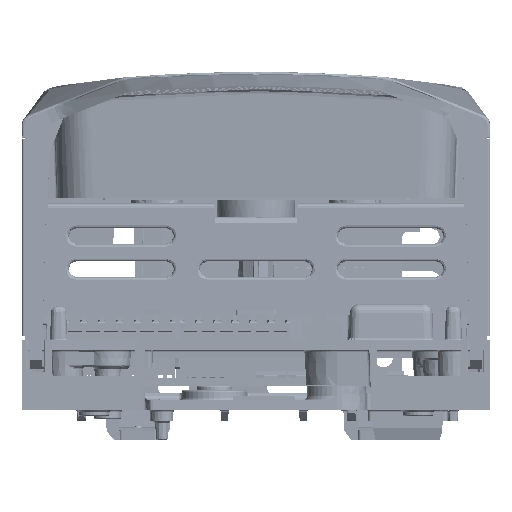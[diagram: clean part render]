
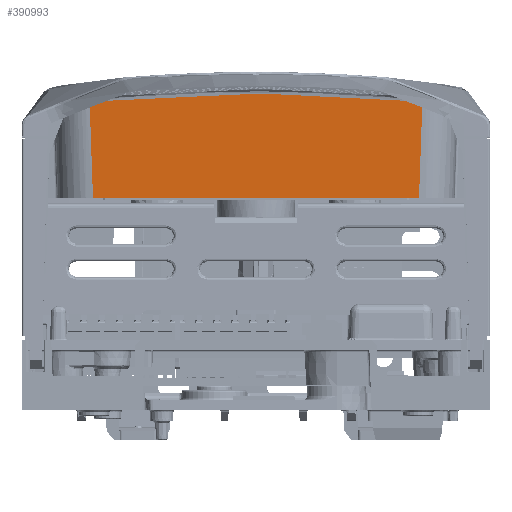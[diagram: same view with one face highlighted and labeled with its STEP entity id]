
A CAD part, front view. The second image highlights one B-rep face of the part: STEP entity #390993.
In plain terms, the highlighted planar face has unit normal (0, -0.999, -0.035) as drawn and (0, 0.999, -0.035) by its records, which use the part's own axes.
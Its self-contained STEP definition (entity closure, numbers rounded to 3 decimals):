
#33043=PLANE('',#419118);
#51691=FACE_OUTER_BOUND('',#72358,.T.);
#72358=EDGE_LOOP('',(#351790,#351791,#351792,#351793,#351794));
#86346=B_SPLINE_CURVE_WITH_KNOTS('',3,(#676980,#676981,#676982,#676983,
#676984,#676985,#676986,#676987,#676988,#676989),.UNSPECIFIED.,.F.,.F.,
(4,3,3,4),(0.,0.5,0.5,1.),.UNSPECIFIED.);
#86347=B_SPLINE_CURVE_WITH_KNOTS('',3,(#676996,#676997,#676998,#676999),
 .UNSPECIFIED.,.F.,.F.,(4,4),(0.,1.),.UNSPECIFIED.);
#121489=LINE('',#676991,#163462);
#121490=LINE('',#676993,#163463);
#121491=LINE('',#676995,#163464);
#163462=VECTOR('',#508116,20.495);
#163463=VECTOR('',#508117,68.967);
#163464=VECTOR('',#508118,20.495);
#198444=VERTEX_POINT('',#676978);
#198445=VERTEX_POINT('',#676979);
#198446=VERTEX_POINT('',#676990);
#198447=VERTEX_POINT('',#676992);
#198448=VERTEX_POINT('',#676994);
#250789=EDGE_CURVE('',#198444,#198445,#86346,.T.);
#250790=EDGE_CURVE('',#198445,#198446,#121489,.T.);
#250791=EDGE_CURVE('',#198447,#198446,#121490,.T.);
#250792=EDGE_CURVE('',#198447,#198448,#121491,.T.);
#250793=EDGE_CURVE('',#198448,#198444,#86347,.T.);
#351790=ORIENTED_EDGE('',*,*,#250789,.T.);
#351791=ORIENTED_EDGE('',*,*,#250790,.T.);
#351792=ORIENTED_EDGE('',*,*,#250791,.F.);
#351793=ORIENTED_EDGE('',*,*,#250792,.T.);
#351794=ORIENTED_EDGE('',*,*,#250793,.T.);
#390993=ADVANCED_FACE('',(#51691),#33043,.T.);
#419118=AXIS2_PLACEMENT_3D('',#676977,#508114,#508115);
#508114=DIRECTION('center_axis',(0.,0.999,
-0.035));
#508115=DIRECTION('ref_axis',(0.,0.035,0.999));
#508116=DIRECTION('',(-0.035,-0.035,-0.999));
#508117=DIRECTION('',(1.,0.,0.));
#508118=DIRECTION('',(-0.035,0.035,0.999));
#676977=CARTESIAN_POINT('Origin',(-109.555,-146.599,45.761));
#676978=CARTESIAN_POINT('',(2.445,-145.712,71.155));
#676979=CARTESIAN_POINT('',(38.643,-145.772,69.434));
#676980=CARTESIAN_POINT('Ctrl Pts',(2.445,-145.712,
71.155));
#676981=CARTESIAN_POINT('Ctrl Pts',(8.485,-145.712,
71.155));
#676982=CARTESIAN_POINT('Ctrl Pts',(14.525,-145.717,71.003));
#676983=CARTESIAN_POINT('Ctrl Pts',(20.553,-145.729,
70.683));
#676984=CARTESIAN_POINT('Ctrl Pts',(20.557,-145.729,
70.683));
#676985=CARTESIAN_POINT('Ctrl Pts',(20.561,-145.729,
70.683));
#676986=CARTESIAN_POINT('Ctrl Pts',(20.564,-145.729,
70.682));
#676987=CARTESIAN_POINT('Ctrl Pts',(26.596,-145.74,70.362));
#676988=CARTESIAN_POINT('Ctrl Pts',(32.621,-145.755,
69.919));
#676989=CARTESIAN_POINT('Ctrl Pts',(38.643,-145.772,
69.434));
#676990=CARTESIAN_POINT('',(37.929,-146.487,48.964));
#676991=CARTESIAN_POINT('',(37.817,-146.599,45.765));
#676992=CARTESIAN_POINT('',(-31.038,-146.487,48.964));
#676993=CARTESIAN_POINT('',(-42.58,-146.487,48.964));
#676994=CARTESIAN_POINT('',(-31.753,-145.772,69.434));
#676995=CARTESIAN_POINT('',(-30.927,-146.599,45.765));
#676996=CARTESIAN_POINT('Ctrl Pts',(-31.753,-145.772,
69.434));
#676997=CARTESIAN_POINT('Ctrl Pts',(-20.364,-145.74,
70.351));
#676998=CARTESIAN_POINT('Ctrl Pts',(-8.97,-145.713,
71.119));
#676999=CARTESIAN_POINT('Ctrl Pts',(2.445,-145.712,
71.153));
